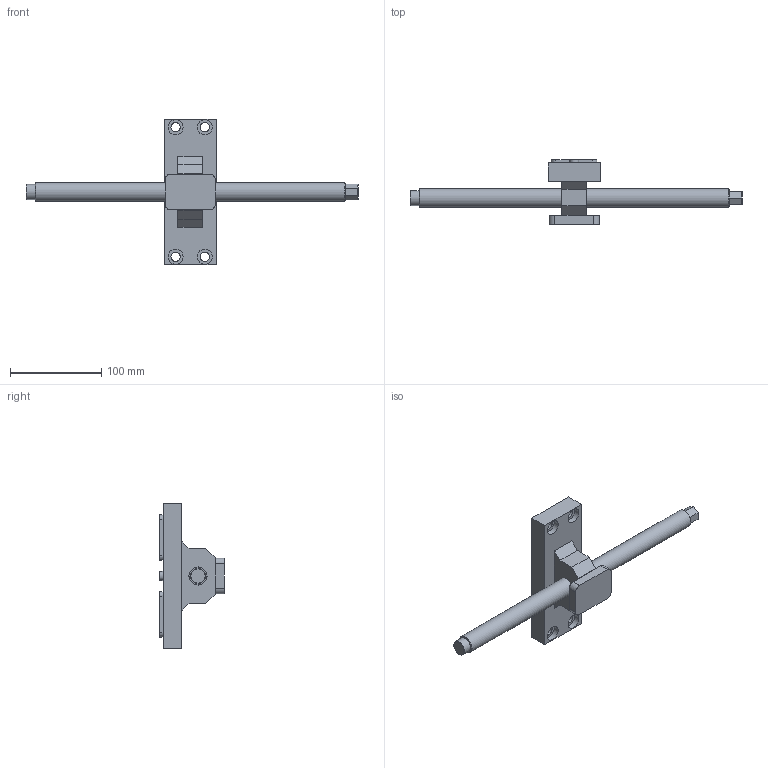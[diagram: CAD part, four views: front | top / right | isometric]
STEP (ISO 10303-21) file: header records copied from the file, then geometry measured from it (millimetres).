
FILE_DESCRIPTION (( 'STEP AP214' ), '1' );
FILE_NAME ('49250-TG125.STEP', '2020-04-06T08:24:46', ( '' ), ( '' ), 'SwSTEP 2.0', 'SolidWorks 2019', '' );
FILE_SCHEMA (( 'AUTOMOTIVE_DESIGN' ));
Length unit declared in the file: millimetre
Products named in the file (1): 49250-TG125
Bounding box: 364 x 70.5 x 160 mm (x, y, z)
Volume: 360807.5 mm3; surface area: 61268.5 mm2
Topology: 1 solids, 1 shells, 89 faces, 209 edges, 135 vertices
Faces by surface type: plane 65, cylinder 21, cone 3
Full cylindrical faces by diameter (mm): 10.2 x4, 16.5 x5, 20 x2
Entity records: 2857 total; most frequent: DIRECTION 414, CARTESIAN_POINT 408, ORIENTED_EDGE 378, EDGE_CURVE 189, VECTOR 144, LINE 144, AXIS2_PLACEMENT_3D 135, VERTEX_POINT 129
